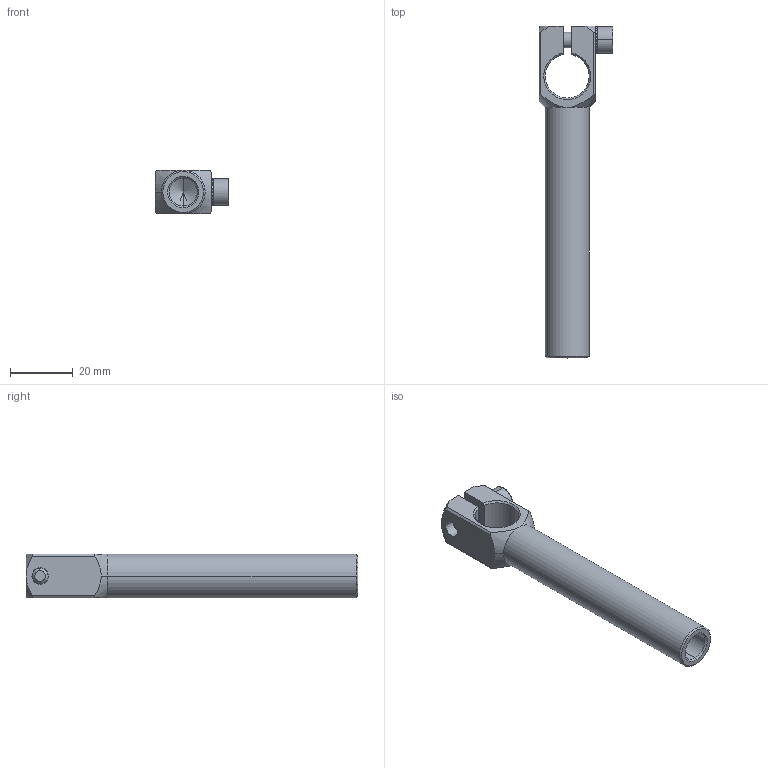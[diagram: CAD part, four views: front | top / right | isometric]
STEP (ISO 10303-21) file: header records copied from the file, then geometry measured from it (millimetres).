
FILE_DESCRIPTION (( 'STEP AP214' ), '1' );
FILE_NAME ('SCA1-1414L80T.STEP', '2023-01-11T08:02:03', ( 'Windows User' ), ( 'P R C' ), 'SwSTEP 2.0', 'SolidWorks 2019', '' );
FILE_SCHEMA (( 'AUTOMOTIVE_DESIGN' ));
Length unit declared in the file: millimetre
Products named in the file (1): SCA1-1414L80T
Bounding box: 23.6 x 106 x 14 mm (x, y, z)
Volume: 11537.5 mm3; surface area: 8915.4 mm2
Topology: 3 solids, 3 shells, 253 faces, 721 edges, 473 vertices
Faces by surface type: plane 211, cylinder 22, cone 18, bspline 2
Entity records: 11324 total; most frequent: CARTESIAN_POINT 1712, DIRECTION 1447, ORIENTED_EDGE 1438, EDGE_CURVE 719, AXIS2_PLACEMENT_3D 499, VERTEX_POINT 473, VECTOR 449, LINE 449
